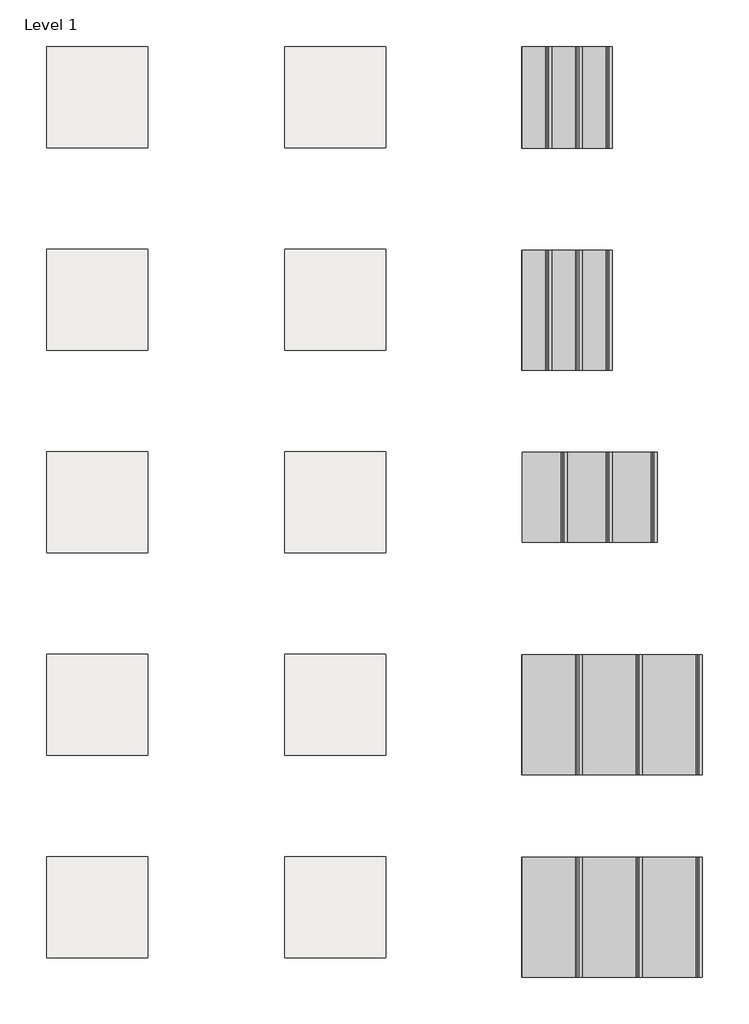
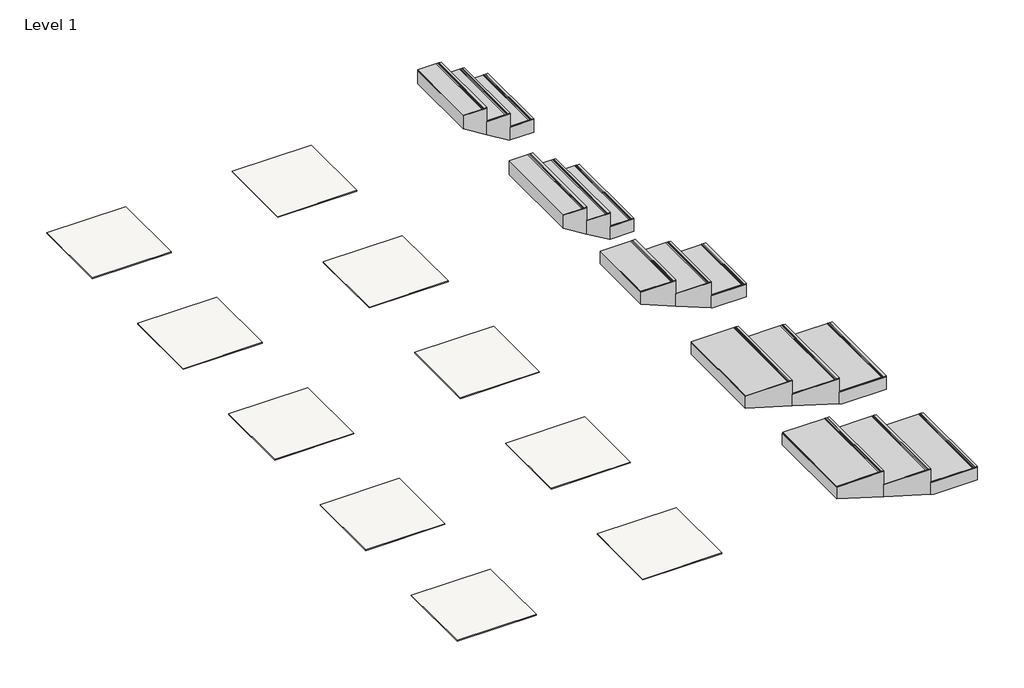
# One storey: 10 coverings, 5 stair flights.
"""IFC4 building model written with IfcOpenShell, lengths in millimetres."""

from ifc_helpers import new_model, si_unit, frame, origin, place, context, project, spatial, polyline, outline, extrude, faceted_brep, element, save

model = new_model("IFC4")

# Units and contexts
model_context = context("Model", 3, world=origin())
ifc_project = project(units=[si_unit("LENGTHUNIT", "METRE", prefix="MILLI")], contexts=[model_context])

# Site, building, storey
site = spatial("IfcSite", under=ifc_project)
building = spatial("IfcBuilding", under=site)
storey = spatial("IfcBuildingStorey", under=building, Name="Level 1", Elevation=0.0)

# Coverings
placement = place(None, origin())
element("IfcCovering", 1, ObjectType="REVIGRES-TRAVERTINO_CLASSIC-DG-29.5x59.2-RECT-OFFWHITE", at=placement, inside=storey, context=model_context, shape_type="SweptSolid", body=[
    extrude(outline(polyline([(14300.8539114, 1708.8888813), (13300.8539114, 1708.8888813), (13300.8539114, 2708.8888813), (14300.8539114, 2708.8888813), (14300.8539114, 1708.8888813)])), frame((0.0, 0.0, -9.8), z_axis=(0.0, 0.0, 1.0), x_axis=(1.0, 0.0, 0.0)), (0.0, 0.0, 1.0), 9.8),
])
element("IfcCovering", 2, ObjectType="REVIGRES-TRAVERTINO_CLASSIC-DG-59.2x59.2-RECT-OFFWHITE", at=placement, inside=storey, context=model_context, shape_type="SweptSolid", body=[
    extrude(outline(polyline([(14300.8539114, -4291.1111187), (13300.8539114, -4291.1111187), (13300.8539114, -3291.1111187), (14300.8539114, -3291.1111187), (14300.8539114, -4291.1111187)])), frame((0.0, 0.0, -9.8), z_axis=(0.0, 0.0, 1.0), x_axis=(1.0, 0.0, 0.0)), (0.0, 0.0, 1.0), 9.8),
])
element("IfcCovering", 3, ObjectType="REVIGRES-TRAVERTINO_CLASSIC-DG-59.2x118.6-RECT-OFFWHITE", at=placement, inside=storey, context=model_context, shape_type="SweptSolid", body=[
    extrude(outline(polyline([(14300.8539114, -6291.1111187), (13300.8539114, -6291.1111187), (13300.8539114, -5291.1111187), (14300.8539114, -5291.1111187), (14300.8539114, -6291.1111187)])), frame((0.0, 0.0, -9.8), z_axis=(0.0, 0.0, 1.0), x_axis=(1.0, 0.0, 0.0)), (0.0, 0.0, 1.0), 9.8),
])
element("IfcCovering", 4, ObjectType="REVIGRES-TRAVERTINO_CLASSIC-DG-44.35x88.9-RECT-OFFWHITE", at=placement, inside=storey, context=model_context, shape_type="SweptSolid", body=[
    extrude(outline(polyline([(14300.8539114, -2291.1111187), (13300.8539114, -2291.1111187), (13300.8539114, -1291.1111187), (14300.8539114, -1291.1111187), (14300.8539114, -2291.1111187)])), frame((0.0, 0.0, -10.5), z_axis=(0.0, 0.0, 1.0), x_axis=(1.0, 0.0, 0.0)), (0.0, 0.0, 1.0), 10.5),
])
element("IfcCovering", 5, ObjectType="REVIGRES-TRAVERTINO_CLASSIC-DG-29.5x118.6-RECT-OFFWHITE", at=placement, inside=storey, context=model_context, shape_type="SweptSolid", body=[
    extrude(outline(polyline([(14300.8539114, -291.1111187), (13300.8539114, -291.1111187), (13300.8539114, 708.8888813), (14300.8539114, 708.8888813), (14300.8539114, -291.1111187)])), frame((0.0, 0.0, -9.8), z_axis=(0.0, 0.0, 1.0), x_axis=(1.0, 0.0, 0.0)), (0.0, 0.0, 1.0), 9.8),
])
element("IfcCovering", 6, ObjectType="REVIGRES-TRAVERTINO_CLASSIC-DG-59.2x118.6-RECT-SAND", at=placement, inside=storey, context=model_context, shape_type="SweptSolid", body=[
    extrude(outline(polyline([(16650.8539114, -6291.1111187), (15650.8539114, -6291.1111187), (15650.8539114, -5291.1111187), (16650.8539114, -5291.1111187), (16650.8539114, -6291.1111187)])), frame((0.0, 0.0, -9.8), z_axis=(0.0, 0.0, 1.0), x_axis=(1.0, 0.0, 0.0)), (0.0, 0.0, 1.0), 9.8),
])
element("IfcCovering", 7, ObjectType="REVIGRES-TRAVERTINO_CLASSIC-DG-29.5x59.2-RECT-SAND", at=placement, inside=storey, context=model_context, shape_type="SweptSolid", body=[
    extrude(outline(polyline([(16650.8539114, 1708.8888813), (15650.8539114, 1708.8888813), (15650.8539114, 2708.8888813), (16650.8539114, 2708.8888813), (16650.8539114, 1708.8888813)])), frame((0.0, 0.0, -9.8), z_axis=(0.0, 0.0, 1.0), x_axis=(1.0, 0.0, 0.0)), (0.0, 0.0, 1.0), 9.8),
])
element("IfcCovering", 8, ObjectType="REVIGRES-TRAVERTINO_CLASSIC-DG-59.2x59.2-RECT-SAND", at=placement, inside=storey, context=model_context, shape_type="SweptSolid", body=[
    extrude(outline(polyline([(16650.8539114, -4291.1111187), (15650.8539114, -4291.1111187), (15650.8539114, -3291.1111187), (16650.8539114, -3291.1111187), (16650.8539114, -4291.1111187)])), frame((0.0, 0.0, -9.8), z_axis=(0.0, 0.0, 1.0), x_axis=(1.0, 0.0, 0.0)), (0.0, 0.0, 1.0), 9.8),
])
element("IfcCovering", 9, ObjectType="REVIGRES-TRAVERTINO_CLASSIC-DG-29.5x118.6-RECT-SAND", at=placement, inside=storey, context=model_context, shape_type="SweptSolid", body=[
    extrude(outline(polyline([(16650.8539114, -291.1111187), (15650.8539114, -291.1111187), (15650.8539114, 708.8888813), (16650.8539114, 708.8888813), (16650.8539114, -291.1111187)])), frame((0.0, 0.0, -9.8), z_axis=(0.0, 0.0, 1.0), x_axis=(1.0, 0.0, 0.0)), (0.0, 0.0, 1.0), 9.8),
])
element("IfcCovering", 10, ObjectType="REVIGRES-TRAVERTINO_CLASSIC-DG-44.35x88.9-RECT-SAND", at=placement, inside=storey, context=model_context, shape_type="SweptSolid", body=[
    extrude(outline(polyline([(16650.8539114, -2291.1111187), (15650.8539114, -2291.1111187), (15650.8539114, -1291.1111187), (16650.8539114, -1291.1111187), (16650.8539114, -2291.1111187)])), frame((0.0, 0.0, -10.5), z_axis=(0.0, 0.0, 1.0), x_axis=(1.0, 0.0, 0.0)), (0.0, 0.0, 1.0), 10.5),
])

# Stair flights
element("IfcStairFlight", 11, ObjectType="REVIGRES-TRAVERTINO_CLASSIC-DG-29.5X59.2", at=placement, inside=storey, context=model_context, shape_type="SolidModel", body=[
    faceted_brep([(18588.8539114, 1704.7638813, 169.4941176), (18885.8539114, 1704.7638813, 169.4941176), (18885.8539114, 2704.7638813, 169.4941176), (18588.8539114, 2704.7638813, 169.4941176), (18588.8539114, 1704.7638813, 0.0), (18885.8539114, 1704.7638813, 0.0), (18885.8539114, 2704.7638813, 0.0), (18588.8539114, 2704.7638813, 0.0), (18291.8539114, 1704.7638813, 348.7882353), (18588.8539114, 1704.7638813, 348.7882353), (18588.8539114, 2704.7638813, 348.7882353), (18291.8539114, 2704.7638813, 348.7882353), (18291.8539114, 1704.7638813, 173.5747353), (18579.379777, 1704.7638813, 0.0), (18579.379777, 2704.7638813, 0.0), (18291.8539114, 2704.7638813, 173.5747353), (17994.8539114, 1704.7638813, 528.0823529), (18291.8539114, 1704.7638813, 528.0823529), (18291.8539114, 2704.7638813, 528.0823529), (17994.8539114, 2704.7638813, 528.0823529), (17994.8539114, 1704.7638813, 352.8688529), (17994.8539114, 2704.7638813, 352.8688529)], [[[0, 1, 2, 3]], [[1, 0, 4, 5]], [[2, 1, 5, 6]], [[3, 2, 6, 7]], [[8, 9, 10, 11]], [[4, 0, 9, 8, 12, 13]], [[0, 3, 10, 9]], [[3, 7, 14, 15, 11, 10]], [[16, 17, 18, 19]], [[17, 16, 20, 12, 8]], [[8, 11, 18, 17]], [[19, 18, 11, 15, 21]], [[16, 19, 21, 20]], [[5, 4, 13, 14, 7, 6]], [[14, 13, 12, 20, 21, 15]]]),
    extrude(outline(polyline([(179.2941176, 18855.8539114), (178.2941176, 18855.8539114), (178.2941176, 18850.8539114), (179.2941176, 18850.8539114), (179.2941176, 18840.8539114), (178.2941176, 18840.8539114), (178.2941176, 18835.8539114), (179.2941176, 18835.8539114), (179.2941176, 18825.8539114), (178.2941176, 18825.8539114), (178.2941176, 18820.8539114), (179.2941176, 18820.8539114), (179.2941176, 18590.8539114), (170.7941176, 18590.8539114), (170.7941176, 18885.8539114), (179.2941176, 18885.8539114), (179.2941176, 18855.8539114)])), frame((0.0, 1704.7638813, 0.0), z_axis=(0.0, 1.0, 0.0), x_axis=(0.0, 0.0, 1.0)), (0.0, 0.0, 1.0), 1000.0),
    extrude(outline(polyline([(358.5882353, 18558.8539114), (357.5882353, 18558.8539114), (357.5882353, 18553.8539114), (358.5882353, 18553.8539114), (358.5882353, 18543.8539114), (357.5882353, 18543.8539114), (357.5882353, 18538.8539114), (358.5882353, 18538.8539114), (358.5882353, 18528.8539114), (357.5882353, 18528.8539114), (357.5882353, 18523.8539114), (358.5882353, 18523.8539114), (358.5882353, 18293.8539114), (350.0882353, 18293.8539114), (350.0882353, 18588.8539114), (358.5882353, 18588.8539114), (358.5882353, 18558.8539114)])), frame((0.0, 1704.7638813, 0.0), z_axis=(0.0, 1.0, 0.0), x_axis=(0.0, 0.0, 1.0)), (0.0, 0.0, 1.0), 1000.0),
    extrude(outline(polyline([(537.8823529, 18261.8539114), (536.8823529, 18261.8539114), (536.8823529, 18256.8539114), (537.8823529, 18256.8539114), (537.8823529, 18246.8539114), (536.8823529, 18246.8539114), (536.8823529, 18241.8539114), (537.8823529, 18241.8539114), (537.8823529, 18231.8539114), (536.8823529, 18231.8539114), (536.8823529, 18226.8539114), (537.8823529, 18226.8539114), (537.8823529, 17996.8539114), (529.3823529, 17996.8539114), (529.3823529, 18291.8539114), (537.8823529, 18291.8539114), (537.8823529, 18261.8539114)])), frame((0.0, 1704.7638813, 0.0), z_axis=(0.0, 1.0, 0.0), x_axis=(0.0, 0.0, 1.0)), (0.0, 0.0, 1.0), 1000.0),
])
element("IfcStairFlight", 12, ObjectType="REVIGRES-TRAVERTINO_CLASSIC-DG-29.5X118.6", at=placement, inside=storey, context=model_context, shape_type="SolidModel", body=[
    faceted_brep([(18588.8539114, -489.2361187, 169.4941176), (18885.8539114, -489.2361187, 169.4941176), (18885.8539114, 698.7638813, 169.4941176), (18588.8539114, 698.7638813, 169.4941176), (18588.8539114, -489.2361187, 0.0), (18885.8539114, -489.2361187, 0.0), (18885.8539114, 698.7638813, 0.0), (18588.8539114, 698.7638813, 0.0), (18291.8539114, -489.2361187, 348.7882353), (18588.8539114, -489.2361187, 348.7882353), (18588.8539114, 698.7638813, 348.7882353), (18291.8539114, 698.7638813, 348.7882353), (18291.8539114, -489.2361187, 173.5747353), (18579.379777, -489.2361187, 0.0), (18579.379777, 698.7638813, 0.0), (18291.8539114, 698.7638813, 173.5747353), (17994.8539114, -489.2361187, 528.0823529), (18291.8539114, -489.2361187, 528.0823529), (18291.8539114, 698.7638813, 528.0823529), (17994.8539114, 698.7638813, 528.0823529), (17994.8539114, -489.2361187, 352.8688529), (17994.8539114, 698.7638813, 352.8688529)], [[[0, 1, 2, 3]], [[1, 0, 4, 5]], [[2, 1, 5, 6]], [[3, 2, 6, 7]], [[8, 9, 10, 11]], [[4, 0, 9, 8, 12, 13]], [[0, 3, 10, 9]], [[3, 7, 14, 15, 11, 10]], [[16, 17, 18, 19]], [[17, 16, 20, 12, 8]], [[8, 11, 18, 17]], [[19, 18, 11, 15, 21]], [[16, 19, 21, 20]], [[5, 4, 13, 14, 7, 6]], [[14, 13, 12, 20, 21, 15]]]),
    extrude(outline(polyline([(179.2941176, 18855.8539114), (178.2941176, 18855.8539114), (178.2941176, 18850.8539114), (179.2941176, 18850.8539114), (179.2941176, 18840.8539114), (178.2941176, 18840.8539114), (178.2941176, 18835.8539114), (179.2941176, 18835.8539114), (179.2941176, 18825.8539114), (178.2941176, 18825.8539114), (178.2941176, 18820.8539114), (179.2941176, 18820.8539114), (179.2941176, 18590.8539114), (169.4941176, 18590.8539114), (169.4941176, 18885.8539114), (179.2941176, 18885.8539114), (179.2941176, 18855.8539114)])), frame((0.0, -489.2361187, 0.0), z_axis=(0.0, 1.0, 0.0), x_axis=(0.0, 0.0, 1.0)), (0.0, 0.0, 1.0), 1188.0),
    extrude(outline(polyline([(358.5882353, 18558.8539114), (357.5882353, 18558.8539114), (357.5882353, 18553.8539114), (358.5882353, 18553.8539114), (358.5882353, 18543.8539114), (357.5882353, 18543.8539114), (357.5882353, 18538.8539114), (358.5882353, 18538.8539114), (358.5882353, 18528.8539114), (357.5882353, 18528.8539114), (357.5882353, 18523.8539114), (358.5882353, 18523.8539114), (358.5882353, 18293.8539114), (348.7882353, 18293.8539114), (348.7882353, 18588.8539114), (358.5882353, 18588.8539114), (358.5882353, 18558.8539114)])), frame((0.0, -489.2361187, 0.0), z_axis=(0.0, 1.0, 0.0), x_axis=(0.0, 0.0, 1.0)), (0.0, 0.0, 1.0), 1188.0),
    extrude(outline(polyline([(537.8823529, 18261.8539114), (536.8823529, 18261.8539114), (536.8823529, 18256.8539114), (537.8823529, 18256.8539114), (537.8823529, 18246.8539114), (536.8823529, 18246.8539114), (536.8823529, 18241.8539114), (537.8823529, 18241.8539114), (537.8823529, 18231.8539114), (536.8823529, 18231.8539114), (536.8823529, 18226.8539114), (537.8823529, 18226.8539114), (537.8823529, 17996.8539114), (528.0823529, 17996.8539114), (528.0823529, 18291.8539114), (537.8823529, 18291.8539114), (537.8823529, 18261.8539114)])), frame((0.0, -489.2361187, 0.0), z_axis=(0.0, 1.0, 0.0), x_axis=(0.0, 0.0, 1.0)), (0.0, 0.0, 1.0), 1188.0),
])
element("IfcStairFlight", 13, ObjectType="REVIGRES-TRAVERTINO_CLASSIC-DG-44.35X88.9", at=placement, inside=storey, context=model_context, shape_type="SolidModel", body=[
    faceted_brep([(18887.3539114, -2186.6861187, 169.4941176), (19332.8539114, -2186.6861187, 169.4941176), (19332.8539114, -1295.6861187, 169.4941176), (18887.3539114, -1295.6861187, 169.4941176), (18887.3539114, -2186.6861187, 7.8019951), (18906.7398727, -2186.6861187, 0.0), (19332.8539114, -2186.6861187, 0.0), (19332.8539114, -1295.6861187, 0.0), (18906.7398727, -1295.6861187, 0.0), (18887.3539114, -1295.6861187, 7.8019951), (18441.8539114, -2186.6861187, 348.7882353), (18887.3539114, -2186.6861187, 348.7882353), (18887.3539114, -1295.6861187, 348.7882353), (18441.8539114, -1295.6861187, 348.7882353), (18441.8539114, -2186.6861187, 187.0961128), (18441.8539114, -1295.6861187, 187.0961128), (17996.3539114, -2186.6861187, 528.0823529), (18441.8539114, -2186.6861187, 528.0823529), (18441.8539114, -1295.6861187, 528.0823529), (17996.3539114, -1295.6861187, 528.0823529), (17996.3539114, -2186.6861187, 366.3902304), (17996.3539114, -1295.6861187, 366.3902304)], [[[0, 1, 2, 3]], [[1, 0, 4, 5, 6]], [[2, 1, 6, 7]], [[3, 2, 7, 8, 9]], [[10, 11, 12, 13]], [[11, 10, 14, 4, 0]], [[0, 3, 12, 11]], [[13, 12, 3, 9, 15]], [[16, 17, 18, 19]], [[17, 16, 20, 14, 10]], [[10, 13, 18, 17]], [[19, 18, 13, 15, 21]], [[16, 19, 21, 20]], [[7, 6, 5, 8]], [[8, 5, 4, 14, 20, 21, 15, 9]]]),
    extrude(outline(polyline([(179.2941176, 19302.8539114), (178.2941176, 19302.8539114), (178.2941176, 19297.8539114), (179.2941176, 19297.8539114), (179.2941176, 19287.8539114), (178.2941176, 19287.8539114), (178.2941176, 19282.8539114), (179.2941176, 19282.8539114), (179.2941176, 19272.8539114), (178.2941176, 19272.8539114), (178.2941176, 19267.8539114), (179.2941176, 19267.8539114), (179.2941176, 18889.3539114), (168.7941176, 18889.3539114), (168.7941176, 19332.8539114), (179.2941176, 19332.8539114), (179.2941176, 19302.8539114)])), frame((0.0, -2186.6861187, 0.0), z_axis=(0.0, 1.0, 0.0), x_axis=(0.0, 0.0, 1.0)), (0.0, 0.0, 1.0), 891.0),
    extrude(outline(polyline([(358.5882353, 18857.3539114), (357.5882353, 18857.3539114), (357.5882353, 18852.3539114), (358.5882353, 18852.3539114), (358.5882353, 18842.3539114), (357.5882353, 18842.3539114), (357.5882353, 18837.3539114), (358.5882353, 18837.3539114), (358.5882353, 18827.3539114), (357.5882353, 18827.3539114), (357.5882353, 18822.3539114), (358.5882353, 18822.3539114), (358.5882353, 18443.8539114), (348.0882353, 18443.8539114), (348.0882353, 18887.3539114), (358.5882353, 18887.3539114), (358.5882353, 18857.3539114)])), frame((0.0, -2186.6861187, 0.0), z_axis=(0.0, 1.0, 0.0), x_axis=(0.0, 0.0, 1.0)), (0.0, 0.0, 1.0), 891.0),
    extrude(outline(polyline([(537.8823529, 18411.8539114), (536.8823529, 18411.8539114), (536.8823529, 18406.8539114), (537.8823529, 18406.8539114), (537.8823529, 18396.8539114), (536.8823529, 18396.8539114), (536.8823529, 18391.8539114), (537.8823529, 18391.8539114), (537.8823529, 18381.8539114), (536.8823529, 18381.8539114), (536.8823529, 18376.8539114), (537.8823529, 18376.8539114), (537.8823529, 17998.3539114), (527.3823529, 17998.3539114), (527.3823529, 18441.8539114), (537.8823529, 18441.8539114), (537.8823529, 18411.8539114)])), frame((0.0, -2186.6861187, 0.0), z_axis=(0.0, 1.0, 0.0), x_axis=(0.0, 0.0, 1.0)), (0.0, 0.0, 1.0), 891.0),
])
element("IfcStairFlight", 14, ObjectType="REVIGRES-TRAVERTINO_CLASSIC-DG-59.2X59.2", at=placement, inside=storey, context=model_context, shape_type="SolidModel", body=[
    faceted_brep([(19182.8539114, -4483.2361187, 168.7941176), (19776.8539114, -4483.2361187, 168.7941176), (19776.8539114, -3295.2361187, 168.7941176), (19182.8539114, -3295.2361187, 168.7941176), (19182.8539114, -4483.2361187, 12.1099045), (19222.9739296, -4483.2361187, 0.0), (19776.8539114, -4483.2361187, 0.0), (19776.8539114, -3295.2361187, 0.0), (19222.9739296, -3295.2361187, 0.0), (19182.8539114, -3295.2361187, 12.1099045), (18588.8539114, -4483.2361187, 348.0882353), (19182.8539114, -4483.2361187, 348.0882353), (19182.8539114, -3295.2361187, 348.0882353), (18588.8539114, -3295.2361187, 348.0882353), (18588.8539114, -4483.2361187, 191.4040222), (18588.8539114, -3295.2361187, 191.4040222), (17994.8539114, -4483.2361187, 527.3823529), (18588.8539114, -4483.2361187, 527.3823529), (18588.8539114, -3295.2361187, 527.3823529), (17994.8539114, -3295.2361187, 527.3823529), (17994.8539114, -4483.2361187, 370.6981398), (17994.8539114, -3295.2361187, 370.6981398)], [[[0, 1, 2, 3]], [[1, 0, 4, 5, 6]], [[2, 1, 6, 7]], [[3, 2, 7, 8, 9]], [[10, 11, 12, 13]], [[11, 10, 14, 4, 0]], [[0, 3, 12, 11]], [[13, 12, 3, 9, 15]], [[16, 17, 18, 19]], [[17, 16, 20, 14, 10]], [[10, 13, 18, 17]], [[19, 18, 13, 15, 21]], [[16, 19, 21, 20]], [[7, 6, 5, 8]], [[8, 5, 4, 14, 20, 21, 15, 9]]]),
    extrude(outline(polyline([(179.2941176, 19746.8539114), (178.2941176, 19746.8539114), (178.2941176, 19741.8539114), (179.2941176, 19741.8539114), (179.2941176, 19731.8539114), (178.2941176, 19731.8539114), (178.2941176, 19726.8539114), (179.2941176, 19726.8539114), (179.2941176, 19716.8539114), (178.2941176, 19716.8539114), (178.2941176, 19711.8539114), (179.2941176, 19711.8539114), (179.2941176, 19184.8539114), (168.7941176, 19184.8539114), (168.7941176, 19776.8539114), (179.2941176, 19776.8539114), (179.2941176, 19746.8539114)])), frame((0.0, -4483.2361187, 0.0), z_axis=(0.0, 1.0, 0.0), x_axis=(0.0, 0.0, 1.0)), (0.0, 0.0, 1.0), 1188.0),
    extrude(outline(polyline([(358.5882353, 19152.8539114), (357.5882353, 19152.8539114), (357.5882353, 19147.8539114), (358.5882353, 19147.8539114), (358.5882353, 19137.8539114), (357.5882353, 19137.8539114), (357.5882353, 19132.8539114), (358.5882353, 19132.8539114), (358.5882353, 19122.8539114), (357.5882353, 19122.8539114), (357.5882353, 19117.8539114), (358.5882353, 19117.8539114), (358.5882353, 18590.8539114), (348.0882353, 18590.8539114), (348.0882353, 19182.8539114), (358.5882353, 19182.8539114), (358.5882353, 19152.8539114)])), frame((0.0, -4483.2361187, 0.0), z_axis=(0.0, 1.0, 0.0), x_axis=(0.0, 0.0, 1.0)), (0.0, 0.0, 1.0), 1188.0),
    extrude(outline(polyline([(537.8823529, 18558.8539114), (536.8823529, 18558.8539114), (536.8823529, 18553.8539114), (537.8823529, 18553.8539114), (537.8823529, 18543.8539114), (536.8823529, 18543.8539114), (536.8823529, 18538.8539114), (537.8823529, 18538.8539114), (537.8823529, 18528.8539114), (536.8823529, 18528.8539114), (536.8823529, 18523.8539114), (537.8823529, 18523.8539114), (537.8823529, 17996.8539114), (527.3823529, 17996.8539114), (527.3823529, 18588.8539114), (537.8823529, 18588.8539114), (537.8823529, 18558.8539114)])), frame((0.0, -4483.2361187, 0.0), z_axis=(0.0, 1.0, 0.0), x_axis=(0.0, 0.0, 1.0)), (0.0, 0.0, 1.0), 1188.0),
])
element("IfcStairFlight", 15, ObjectType="REVIGRES-TRAVERTINO_CLASSIC-DG-59.2X118.6", at=placement, inside=storey, context=model_context, shape_type="SolidModel", body=[
    faceted_brep([(19182.8539114, -6483.5611187, 168.7941176), (19776.8539114, -6483.5611187, 168.7941176), (19776.8539114, -5295.5611187, 168.7941176), (19182.8539114, -5295.5611187, 168.7941176), (19182.8539114, -6483.5611187, 12.1099045), (19222.9739296, -6483.5611187, 0.0), (19776.8539114, -6483.5611187, 0.0), (19776.8539114, -5295.5611187, 0.0), (19222.9739296, -5295.5611187, 0.0), (19182.8539114, -5295.5611187, 12.1099045), (18588.8539114, -6483.5611187, 348.0882353), (19182.8539114, -6483.5611187, 348.0882353), (19182.8539114, -5295.5611187, 348.0882353), (18588.8539114, -5295.5611187, 348.0882353), (18588.8539114, -6483.5611187, 191.4040222), (18588.8539114, -5295.5611187, 191.4040222), (17994.8539114, -6483.5611187, 527.3823529), (18588.8539114, -6483.5611187, 527.3823529), (18588.8539114, -5295.5611187, 527.3823529), (17994.8539114, -5295.5611187, 527.3823529), (17994.8539114, -6483.5611187, 370.6981398), (17994.8539114, -5295.5611187, 370.6981398)], [[[0, 1, 2, 3]], [[1, 0, 4, 5, 6]], [[2, 1, 6, 7]], [[3, 2, 7, 8, 9]], [[10, 11, 12, 13]], [[11, 10, 14, 4, 0]], [[0, 3, 12, 11]], [[13, 12, 3, 9, 15]], [[16, 17, 18, 19]], [[17, 16, 20, 14, 10]], [[10, 13, 18, 17]], [[19, 18, 13, 15, 21]], [[16, 19, 21, 20]], [[7, 6, 5, 8]], [[8, 5, 4, 14, 20, 21, 15, 9]]]),
    extrude(outline(polyline([(179.2941176, 19746.8539114), (178.2941176, 19746.8539114), (178.2941176, 19741.8539114), (179.2941176, 19741.8539114), (179.2941176, 19731.8539114), (178.2941176, 19731.8539114), (178.2941176, 19726.8539114), (179.2941176, 19726.8539114), (179.2941176, 19716.8539114), (178.2941176, 19716.8539114), (178.2941176, 19711.8539114), (179.2941176, 19711.8539114), (179.2941176, 19184.8539114), (169.4941176, 19184.8539114), (169.4941176, 19776.8539114), (179.2941176, 19776.8539114), (179.2941176, 19746.8539114)])), frame((0.0, -6483.5611187, 0.0), z_axis=(0.0, 1.0, 0.0), x_axis=(0.0, 0.0, 1.0)), (0.0, 0.0, 1.0), 1188.0),
    extrude(outline(polyline([(358.5882353, 19152.8539114), (357.5882353, 19152.8539114), (357.5882353, 19147.8539114), (358.5882353, 19147.8539114), (358.5882353, 19137.8539114), (357.5882353, 19137.8539114), (357.5882353, 19132.8539114), (358.5882353, 19132.8539114), (358.5882353, 19122.8539114), (357.5882353, 19122.8539114), (357.5882353, 19117.8539114), (358.5882353, 19117.8539114), (358.5882353, 18590.8539114), (348.7882353, 18590.8539114), (348.7882353, 19182.8539114), (358.5882353, 19182.8539114), (358.5882353, 19152.8539114)])), frame((0.0, -6483.5611187, 0.0), z_axis=(0.0, 1.0, 0.0), x_axis=(0.0, 0.0, 1.0)), (0.0, 0.0, 1.0), 1188.0),
    extrude(outline(polyline([(537.8823529, 18558.8539114), (536.8823529, 18558.8539114), (536.8823529, 18553.8539114), (537.8823529, 18553.8539114), (537.8823529, 18543.8539114), (536.8823529, 18543.8539114), (536.8823529, 18538.8539114), (537.8823529, 18538.8539114), (537.8823529, 18528.8539114), (536.8823529, 18528.8539114), (536.8823529, 18523.8539114), (537.8823529, 18523.8539114), (537.8823529, 17996.8539114), (528.0823529, 17996.8539114), (528.0823529, 18588.8539114), (537.8823529, 18588.8539114), (537.8823529, 18558.8539114)])), frame((0.0, -6483.5611187, 0.0), z_axis=(0.0, 1.0, 0.0), x_axis=(0.0, 0.0, 1.0)), (0.0, 0.0, 1.0), 1188.0),
])

save(model, "model.ifc")
